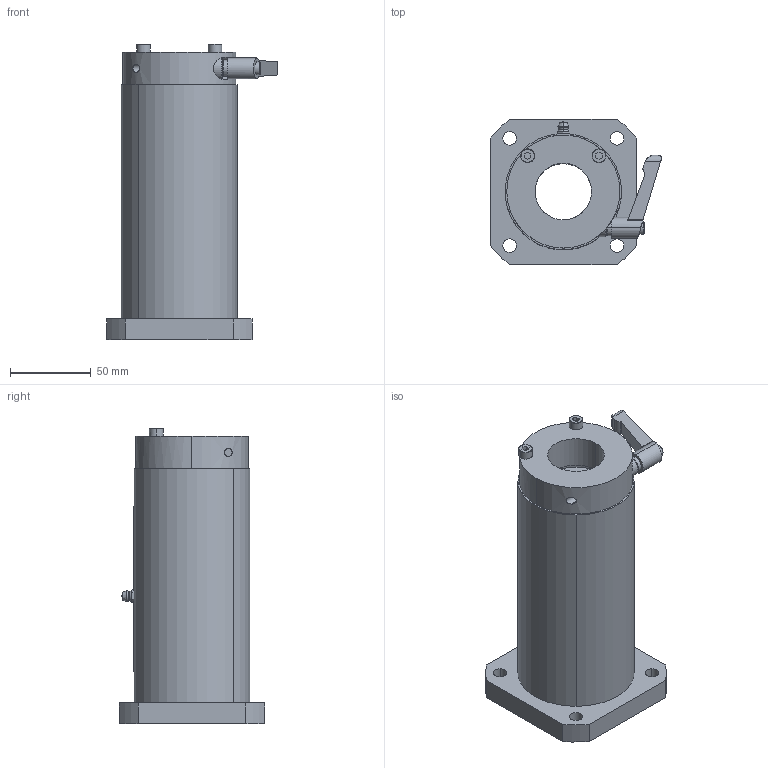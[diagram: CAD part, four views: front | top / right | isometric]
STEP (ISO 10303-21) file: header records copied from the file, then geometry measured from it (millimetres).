
FILE_DESCRIPTION (( 'STEP AP214' ), '1' );
FILE_NAME ('LFWK35-OH-CS.STEP', '2023-06-27T02:13:03', ( '' ), ( '' ), 'SwSTEP 2.0', 'SolidWorks 2019', '' );
FILE_SCHEMA (( 'AUTOMOTIVE_DESIGN' ));
Length unit declared in the file: millimetre
Products named in the file (3): LFWK35-OH-CS; LFWK35-OH; “ÁSCK3520SS-S5.5
Assembly tree (2 placements, depth 2):
  LFWK35-OH-CS
    LFWK35-OH
    “ÁSCK3520SS-S5.5
Bounding box: 105.7 x 90 x 183 mm (x, y, z)
Volume: 588047 mm3; surface area: 98268.9 mm2
Topology: 3 solids, 9 shells, 233 faces, 584 edges, 367 vertices
Faces by surface type: cylinder 83, plane 71, bspline 47, cone 20, torus 8, sphere 4
Entity records: 10288 total; most frequent: CARTESIAN_POINT 2298, DIRECTION 1218, ORIENTED_EDGE 1164, EDGE_CURVE 582, AXIS2_PLACEMENT_3D 510, VERTEX_POINT 366, CIRCLE 319, EDGE_LOOP 280
